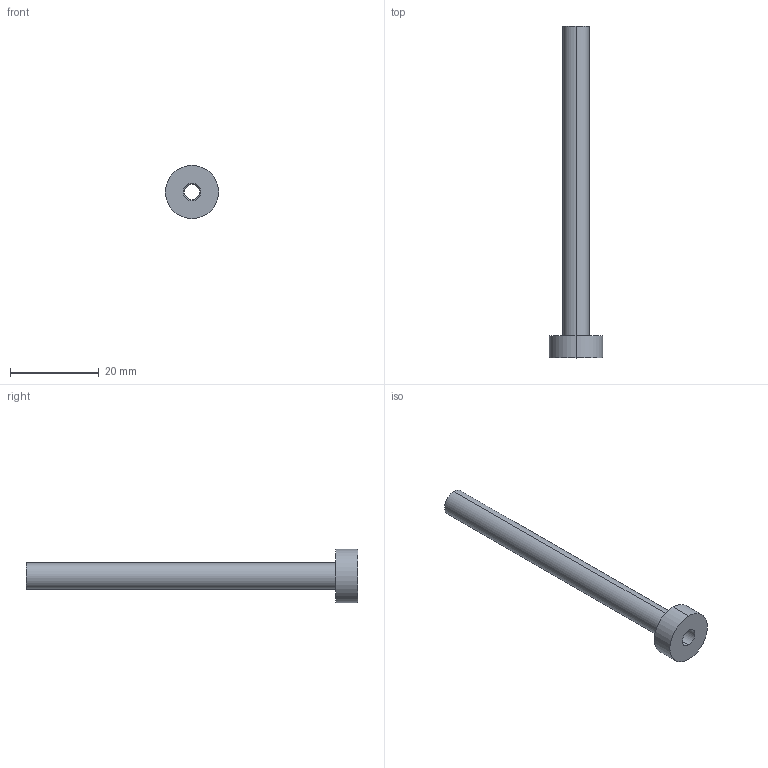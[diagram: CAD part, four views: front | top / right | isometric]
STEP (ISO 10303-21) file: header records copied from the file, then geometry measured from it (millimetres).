
FILE_DESCRIPTION (( 'STEP AP214' ), '1' );
FILE_NAME ('ET-ETN-3,5x75.STEP', '2019-12-16T14:49:40', ( 'August' ), ( '' ), 'SwSTEP 2.0', 'SolidWorks 2018', '' );
FILE_SCHEMA (( 'AUTOMOTIVE_DESIGN' ));
Length unit declared in the file: millimetre
Products named in the file (1): ET-ETN-3,5x75
Bounding box: 12 x 75 x 12 mm (x, y, z)
Volume: 1735.1 mm3; surface area: 2584.8 mm2
Topology: 1 solids, 1 shells, 13 faces, 26 edges, 16 vertices
Faces by surface type: cylinder 8, plane 3, cone 2
Entity records: 382 total; most frequent: DIRECTION 70, CARTESIAN_POINT 56, ORIENTED_EDGE 52, AXIS2_PLACEMENT_3D 30, EDGE_CURVE 26, EDGE_LOOP 16, CIRCLE 16, VERTEX_POINT 16
